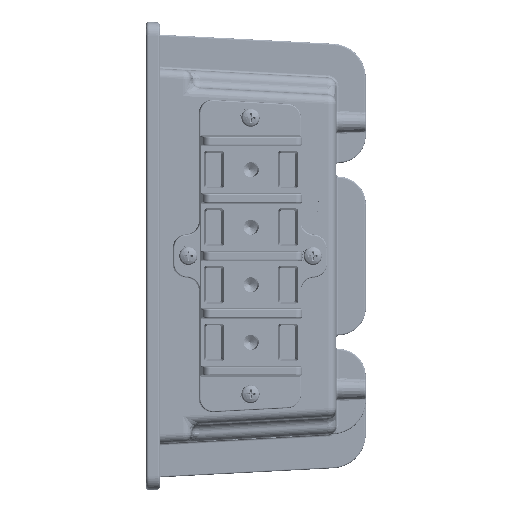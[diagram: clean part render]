
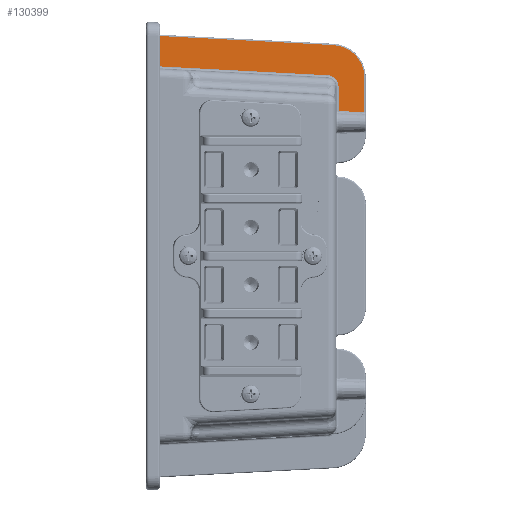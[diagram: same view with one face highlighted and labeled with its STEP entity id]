
A CAD part, left-side view. The second image highlights one B-rep face of the part: STEP entity #130399.
In plain terms, the highlighted planar face has unit normal (-1, -0.018, 0).
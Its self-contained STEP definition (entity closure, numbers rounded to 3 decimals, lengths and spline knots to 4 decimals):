
#3031=ELLIPSE('',#140855,0.1969,0.1969);
#3032=ELLIPSE('',#140865,0.567,0.5669);
#5551=B_SPLINE_CURVE_WITH_KNOTS('',3,(#268711,#268712,#268713,#268714),
 .UNSPECIFIED.,.F.,.F.,(4,4),(-9.1299,-7.9864),
 .UNSPECIFIED.);
#11177=LINE('',#241404,#21164);
#15094=LINE('',#268659,#25081);
#15096=LINE('',#268693,#25083);
#15102=LINE('',#268716,#25089);
#15103=LINE('',#268719,#25090);
#21164=VECTOR('',#156382,0.5283);
#25081=VECTOR('',#170055,0.4282);
#25083=VECTOR('',#170067,2.9215);
#25089=VECTOR('',#170089,0.5954);
#25090=VECTOR('',#170092,3.0209);
#29210=PLANE('',#140864);
#38414=FACE_OUTER_BOUND('',#46723,.T.);
#46723=EDGE_LOOP('',(#111404,#111405,#111406,#111407,#111408,#111409,#111410,
#111411));
#57782=VERTEX_POINT('',#241401);
#57783=VERTEX_POINT('',#241403);
#62312=VERTEX_POINT('',#268656);
#62313=VERTEX_POINT('',#268658);
#62314=VERTEX_POINT('',#268686);
#62319=VERTEX_POINT('',#268710);
#62320=VERTEX_POINT('',#268715);
#62321=VERTEX_POINT('',#268717);
#72073=EDGE_CURVE('',#57783,#57782,#11177,.T.);
#79068=EDGE_CURVE('',#62312,#62313,#15094,.T.);
#79072=EDGE_CURVE('',#62313,#62314,#3031,.T.);
#79074=EDGE_CURVE('',#62314,#57782,#15096,.T.);
#79082=EDGE_CURVE('',#62319,#62312,#5551,.T.);
#79083=EDGE_CURVE('',#62320,#62319,#15102,.T.);
#79084=EDGE_CURVE('',#62321,#62320,#3032,.T.);
#79085=EDGE_CURVE('',#57783,#62321,#15103,.T.);
#111404=ORIENTED_EDGE('',*,*,#79074,.F.);
#111405=ORIENTED_EDGE('',*,*,#79072,.F.);
#111406=ORIENTED_EDGE('',*,*,#79068,.F.);
#111407=ORIENTED_EDGE('',*,*,#79082,.F.);
#111408=ORIENTED_EDGE('',*,*,#79083,.F.);
#111409=ORIENTED_EDGE('',*,*,#79084,.F.);
#111410=ORIENTED_EDGE('',*,*,#79085,.F.);
#111411=ORIENTED_EDGE('',*,*,#72073,.T.);
#130399=ADVANCED_FACE('',(#38414),#29210,.T.);
#140855=AXIS2_PLACEMENT_3D('',#268690,#170062,#170063);
#140864=AXIS2_PLACEMENT_3D('',#268709,#170087,#170088);
#140865=AXIS2_PLACEMENT_3D('',#268718,#170090,#170091);
#156382=DIRECTION('',(0.,0.,-1.));
#170055=DIRECTION('',(0.,0.,1.));
#170062=DIRECTION('center_axis',(-1.,-0.017,
0.));
#170063=DIRECTION('ref_axis',(0.017,-1.,0.));
#170067=DIRECTION('',(-0.017,0.998,0.052));
#170087=DIRECTION('center_axis',(-1.,-0.017,
0.));
#170088=DIRECTION('ref_axis',(0.,0.,1.));
#170089=DIRECTION('',(0.,0.,-1.));
#170090=DIRECTION('center_axis',(1.,0.017,0.));
#170091=DIRECTION('ref_axis',(0.017,-1.,0.));
#170092=DIRECTION('',(0.017,-0.998,-0.052));
#241401=CARTESIAN_POINT('',(-3.8238,3.065,3.2938));
#241403=CARTESIAN_POINT('',(-3.8238,3.065,3.8221));
#241404=CARTESIAN_POINT('',(-3.8238,3.065,3.2544));
#268656=CARTESIAN_POINT('',(-3.7696,-0.0387,2.5161));
#268658=CARTESIAN_POINT('',(-3.7696,-0.0387,2.9443));
#268659=CARTESIAN_POINT('',(-3.7696,-0.0387,0.));
#268686=CARTESIAN_POINT('',(-3.7729,0.1479,3.1409));
#268690=CARTESIAN_POINT('Origin',(-3.7731,0.1582,2.9443));
#268693=CARTESIAN_POINT('',(-3.7747,0.2531,3.1464));
#268709=CARTESIAN_POINT('Origin',(-3.7818,0.6589,0.));
#268710=CARTESIAN_POINT('',(-3.7618,-0.4886,2.5024));
#268711=CARTESIAN_POINT('Ctrl Pts',(-3.7618,-0.4886,
2.5024));
#268712=CARTESIAN_POINT('Ctrl Pts',(-3.7644,-0.3386,
2.507));
#268713=CARTESIAN_POINT('Ctrl Pts',(-3.767,-0.1887,
2.5116));
#268714=CARTESIAN_POINT('Ctrl Pts',(-3.7696,-0.0387,
2.5161));
#268715=CARTESIAN_POINT('',(-3.7618,-0.4886,3.0979));
#268716=CARTESIAN_POINT('',(-3.7618,-0.4886,1.8291));
#268717=CARTESIAN_POINT('',(-3.7712,0.0487,3.664));
#268718=CARTESIAN_POINT('Origin',(-3.7717,0.0783,3.0979));
#268719=CARTESIAN_POINT('',(-3.8011,1.7651,3.754));
